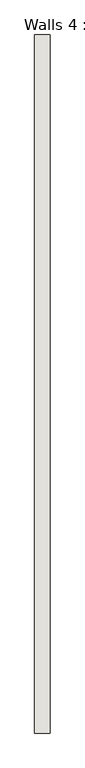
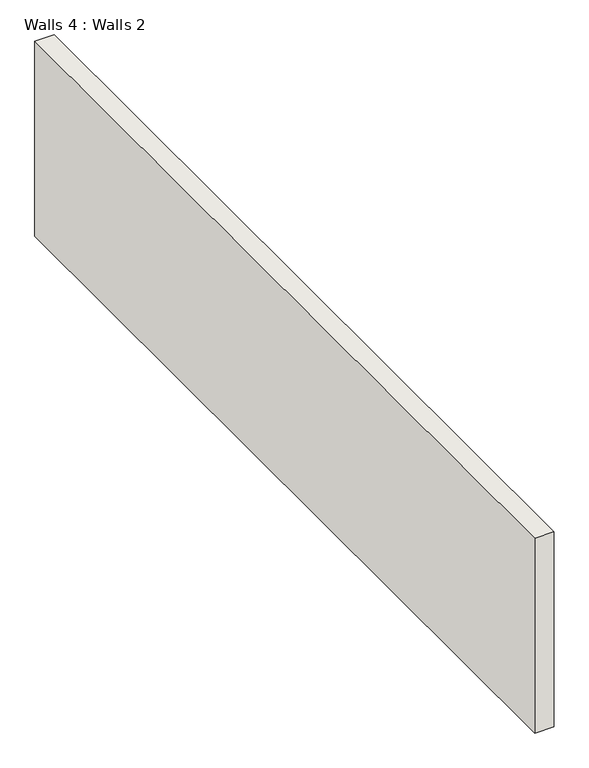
"""IFC4 building model written with IfcOpenShell, lengths in millimetres: wall geometry, Walls 4 : Walls 2."""

from ifc_helpers import new_model, si_unit, frame, origin, place, context, project, spatial, polyline, outline, extrude, source, transform, mapped, element, save


def walls_4_walls_2_dbd03802(model_context):
    return source(origin(), model_context, "Body", "SweptSolid", [
        extrude(outline(polyline([(3382.5944046, -3216.7732169), (3311.5161968, -3216.7732169), (3311.5161968, -14.0452169), (3382.5944046, -14.0452169), (3382.5944046, -3216.7732169)])), frame((0.0, 0.0, 340.0), z_axis=(0.0, 0.0, 1.0), x_axis=(1.0, 0.0, 0.0)), (0.0, 0.0, 1.0), 761.7405899),
    ])


if __name__ == "__main__":
    model = new_model("IFC4")
    model_context = context("Model", 3, world=origin())
    ifc_project = project(units=[si_unit("LENGTHUNIT", "METRE", prefix="MILLI")], contexts=[model_context])
    site = spatial("IfcSite", under=ifc_project)
    building = spatial("IfcBuilding", under=site)
    placement = place(None, origin())
    walls_4_walls_2_shape = walls_4_walls_2_dbd03802(model_context)
    element("IfcWall", 1, ObjectType="Walls 4 : Walls 2", at=placement, inside=building, context=model_context, shape_type="MappedRepresentation", body=[
        mapped(walls_4_walls_2_shape, transform((0.0, 0.0, 0.0), x_axis=(1.0, 0.0, 0.0), y_axis=(0.0, 1.0, 0.0), z_axis=(0.0, 0.0, 1.0))),
    ])
    save(model, "model.ifc")
